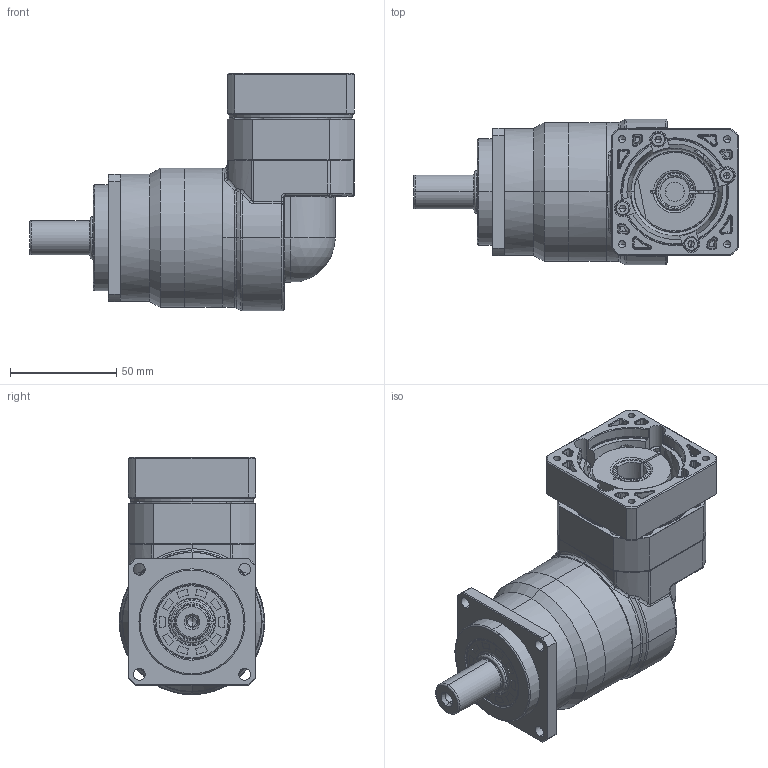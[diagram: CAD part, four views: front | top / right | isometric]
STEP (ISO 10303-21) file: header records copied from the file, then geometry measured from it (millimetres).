
FILE_DESCRIPTION (( 'STEP AP214' ), '1' );
FILE_NAME ('EVB060-L1-S2-P1 14-50-70-M4-33.STEP', '2025-01-04T00:31:40', ( '微软用户' ), ( '微软中国' ), 'SwSTEP 2.0', 'SolidWorks 2021', '' );
FILE_SCHEMA (( 'AUTOMOTIVE_DESIGN' ));
Length unit declared in the file: millimetre
Products named in the file (4): EVB060D-L1-S1-14-50-70-M5-33_1; EVT060D-L2-8-38.1-66.7-M4-33; EVB060-L1-S2-P1 14-50-70-M4-33; 3.EVT064F眻褒眊极_step_stp_stp.stp
Assembly tree (7 placements, depth 2):
  EVB060-L1-S2-P1 14-50-70-M4-33
    EVB060D-L1-S1-14-50-70-M5-33_1
    3.EVT064F眻褒眊极_step_stp_stp.stp
    EVT060D-L2-8-38.1-66.7-M4-33  x5
Bounding box: 153 x 68.5 x 111.75 mm (x, y, z)
Volume: 404222.4 mm3; surface area: 110953.2 mm2
Topology: 16 solids, 26 shells, 1432 faces, 3590 edges, 2229 vertices
Faces by surface type: cylinder 429, plane 391, bspline 335, cone 245, torus 28, sphere 4
Entity records: 73709 total; most frequent: CARTESIAN_POINT 30863, ORIENTED_EDGE 6372, DIRECTION 5252, EDGE_CURVE 3190, AXIS2_PLACEMENT_3D 2102, VERTEX_POINT 2008, EDGE_LOOP 1453, UNCERTAINTY_MEASURE_WITH_UNIT 1316
